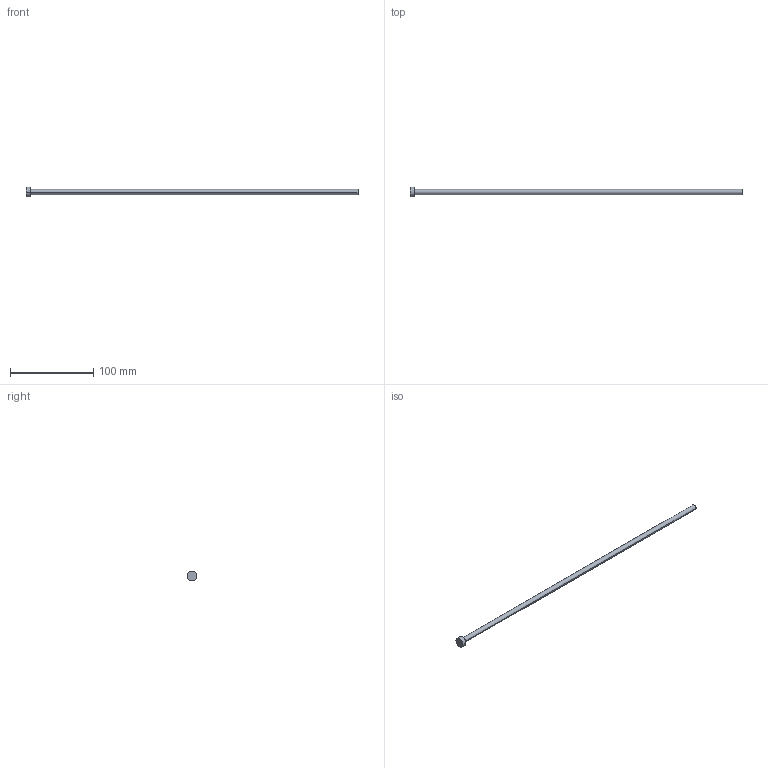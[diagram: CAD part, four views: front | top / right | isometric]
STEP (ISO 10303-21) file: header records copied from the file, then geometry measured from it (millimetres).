
FILE_DESCRIPTION (( 'STEP AP214' ), '1' );
FILE_NAME ('A-6,2x400.STEP', '2020-05-29T15:37:43', ( 'August' ), ( '' ), 'SwSTEP 2.0', 'SolidWorks 2018', '' );
FILE_SCHEMA (( 'AUTOMOTIVE_DESIGN' ));
Length unit declared in the file: millimetre
Products named in the file (1): A-6,2x400
Bounding box: 400 x 12 x 12 mm (x, y, z)
Volume: 12491.9 mm3; surface area: 8104.4 mm2
Topology: 1 solids, 1 shells, 9 faces, 16 edges, 10 vertices
Faces by surface type: cylinder 4, plane 3, torus 2
Entity records: 260 total; most frequent: DIRECTION 48, CARTESIAN_POINT 36, ORIENTED_EDGE 32, AXIS2_PLACEMENT_3D 22, EDGE_CURVE 16, CIRCLE 12, VERTEX_POINT 10, EDGE_LOOP 10
